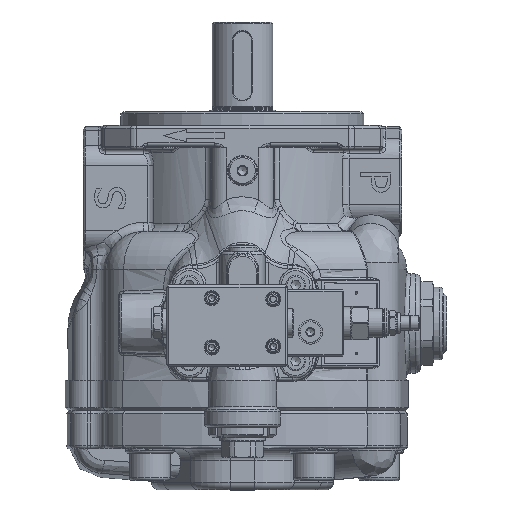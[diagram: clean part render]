
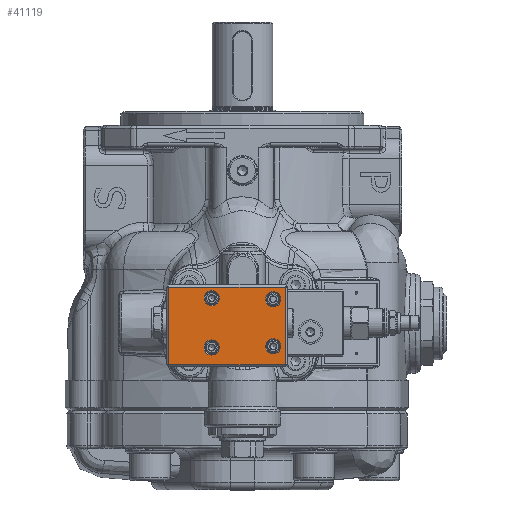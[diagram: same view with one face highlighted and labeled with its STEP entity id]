
A CAD part, top view. The second image highlights one B-rep face of the part: STEP entity #41119.
In plain terms, the highlighted planar face has unit normal (0, 0, 1).
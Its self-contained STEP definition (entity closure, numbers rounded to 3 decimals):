
#1822=FACE_BOUND('',#11942,.T.);
#1823=FACE_BOUND('',#11943,.T.);
#1824=FACE_BOUND('',#11944,.T.);
#1825=FACE_BOUND('',#11945,.T.);
#3996=LINE('',#87601,#6300);
#3997=LINE('',#87603,#6301);
#3998=LINE('',#87605,#6302);
#3999=LINE('',#87606,#6303);
#6300=VECTOR('',#55303,10.);
#6301=VECTOR('',#55304,10.);
#6302=VECTOR('',#55305,10.);
#6303=VECTOR('',#55306,10.);
#7200=PLANE('',#45146);
#9466=FACE_OUTER_BOUND('',#11941,.T.);
#11941=EDGE_LOOP('',(#35716,#35717,#35718,#35719));
#11942=EDGE_LOOP('',(#35720));
#11943=EDGE_LOOP('',(#35721));
#11944=EDGE_LOOP('',(#35722));
#11945=EDGE_LOOP('',(#35723));
#15071=CIRCLE('',#45079,5.);
#15074=CIRCLE('',#45084,5.);
#15077=CIRCLE('',#45089,5.);
#15080=CIRCLE('',#45094,5.);
#18622=VERTEX_POINT('',#87298);
#18625=VERTEX_POINT('',#87308);
#18628=VERTEX_POINT('',#87318);
#18631=VERTEX_POINT('',#87328);
#18688=VERTEX_POINT('',#87599);
#18689=VERTEX_POINT('',#87600);
#18690=VERTEX_POINT('',#87602);
#18691=VERTEX_POINT('',#87604);
#24308=EDGE_CURVE('',#18622,#18622,#15071,.T.);
#24313=EDGE_CURVE('',#18625,#18625,#15074,.T.);
#24318=EDGE_CURVE('',#18628,#18628,#15077,.T.);
#24323=EDGE_CURVE('',#18631,#18631,#15080,.T.);
#24398=EDGE_CURVE('',#18688,#18689,#3996,.T.);
#24399=EDGE_CURVE('',#18690,#18688,#3997,.T.);
#24400=EDGE_CURVE('',#18691,#18690,#3998,.T.);
#24401=EDGE_CURVE('',#18689,#18691,#3999,.T.);
#35716=ORIENTED_EDGE('',*,*,#24398,.F.);
#35717=ORIENTED_EDGE('',*,*,#24399,.F.);
#35718=ORIENTED_EDGE('',*,*,#24400,.F.);
#35719=ORIENTED_EDGE('',*,*,#24401,.F.);
#35720=ORIENTED_EDGE('',*,*,#24323,.F.);
#35721=ORIENTED_EDGE('',*,*,#24313,.F.);
#35722=ORIENTED_EDGE('',*,*,#24308,.F.);
#35723=ORIENTED_EDGE('',*,*,#24318,.F.);
#41119=ADVANCED_FACE('',(#9466,#1822,#1823,#1824,#1825),#7200,.T.);
#45079=AXIS2_PLACEMENT_3D('',#87299,#55121,#55122);
#45084=AXIS2_PLACEMENT_3D('',#87309,#55133,#55134);
#45089=AXIS2_PLACEMENT_3D('',#87319,#55145,#55146);
#45094=AXIS2_PLACEMENT_3D('',#87329,#55157,#55158);
#45146=AXIS2_PLACEMENT_3D('',#87598,#55301,#55302);
#55121=DIRECTION('center_axis',(0.,0.,
1.));
#55122=DIRECTION('ref_axis',(0.,-1.,0.));
#55133=DIRECTION('center_axis',(0.,0.,
1.));
#55134=DIRECTION('ref_axis',(0.,-1.,0.));
#55145=DIRECTION('center_axis',(0.,0.,
1.));
#55146=DIRECTION('ref_axis',(0.,-1.,0.));
#55157=DIRECTION('center_axis',(0.,0.,
1.));
#55158=DIRECTION('ref_axis',(0.,-1.,0.));
#55301=DIRECTION('center_axis',(0.,0.,
1.));
#55302=DIRECTION('ref_axis',(0.,1.,0.));
#55303=DIRECTION('',(-1.,0.,0.));
#55304=DIRECTION('',(0.,-1.,0.));
#55305=DIRECTION('',(1.,0.,0.));
#55306=DIRECTION('',(0.,1.,0.));
#87298=CARTESIAN_POINT('',(-16.689,-50.562,255.499));
#87299=CARTESIAN_POINT('Origin',(-16.689,-55.562,255.499));
#87308=CARTESIAN_POINT('',(23.811,-18.812,255.499));
#87309=CARTESIAN_POINT('Origin',(23.811,-23.812,255.499));
#87318=CARTESIAN_POINT('',(-16.689,-18.062,255.499));
#87319=CARTESIAN_POINT('Origin',(-16.689,-23.062,255.499));
#87328=CARTESIAN_POINT('',(23.811,-49.812,255.499));
#87329=CARTESIAN_POINT('Origin',(23.811,-54.812,255.499));
#87598=CARTESIAN_POINT('Origin',(-6.689,-41.312,255.499));
#87599=CARTESIAN_POINT('',(31.811,-66.812,255.499));
#87600=CARTESIAN_POINT('',(-45.189,-66.812,255.499));
#87601=CARTESIAN_POINT('',(13.311,-66.812,255.499));
#87602=CARTESIAN_POINT('',(31.811,-15.812,255.499));
#87603=CARTESIAN_POINT('',(31.811,-27.812,255.499));
#87604=CARTESIAN_POINT('',(-45.189,-15.812,255.499));
#87605=CARTESIAN_POINT('',(-26.689,-15.812,255.499));
#87606=CARTESIAN_POINT('',(-45.189,-54.812,255.499));
